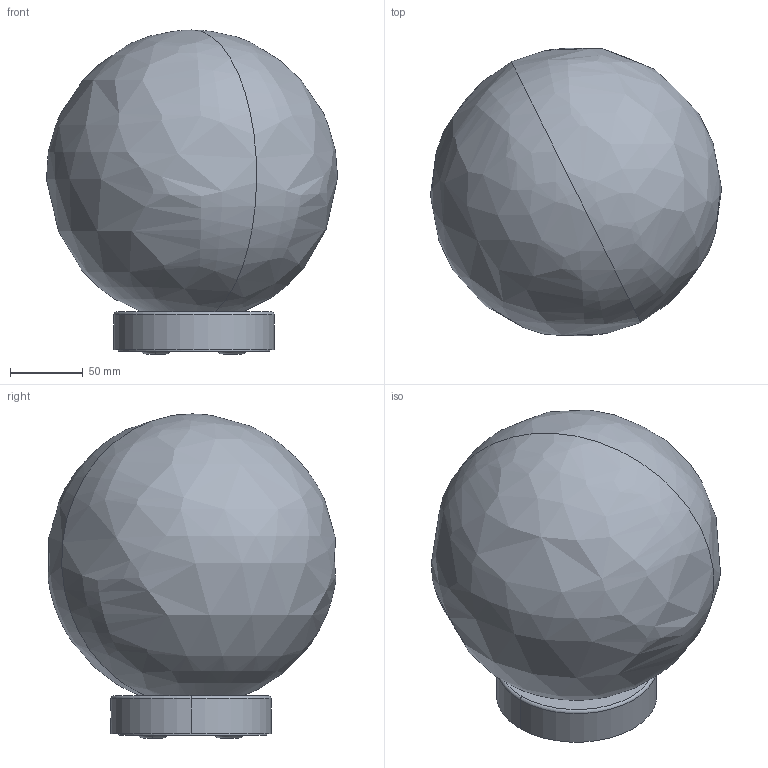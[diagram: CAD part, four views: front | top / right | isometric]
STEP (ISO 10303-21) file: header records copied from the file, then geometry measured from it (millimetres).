
FILE_DESCRIPTION (( 'STEP AP214' ), '1' );
FILE_NAME ('811ASTEHW431_asteroide plafone Ø20.STEP', '2022-04-19T15:10:04', ( '' ), ( '' ), 'SwSTEP 2.0', 'SolidWorks 2016', '' );
FILE_SCHEMA (( 'AUTOMOTIVE_DESIGN' ));
Length unit declared in the file: millimetre
Products named in the file (4): 052COM001400_Rosone plas. forato cromato; 061AST000300_diffusore vetro ASTEROIDE 20 plafone; 010PRP700510_Staffa a muro; 811ASTEHW431_asteroide plafone Ø20
Assembly tree (3 placements, depth 2):
  811ASTEHW431_asteroide plafone Ø20
    052COM001400_Rosone plas. forato cromato
    010PRP700510_Staffa a muro
    061AST000300_diffusore vetro ASTEROIDE 20 plafone
Bounding box: 199.9 x 197.66 x 222.57 mm (x, y, z)
Volume: 522676.3 mm3; surface area: 290752.4 mm2
Topology: 3 solids, 3 shells, 187 faces, 436 edges, 266 vertices
Faces by surface type: cylinder 67, torus 44, cone 36, plane 34, bspline 6
Entity records: 6424 total; most frequent: CARTESIAN_POINT 1697, DIRECTION 1052, ORIENTED_EDGE 864, AXIS2_PLACEMENT_3D 457, EDGE_CURVE 432, CIRCLE 270, VERTEX_POINT 266, EDGE_LOOP 242
